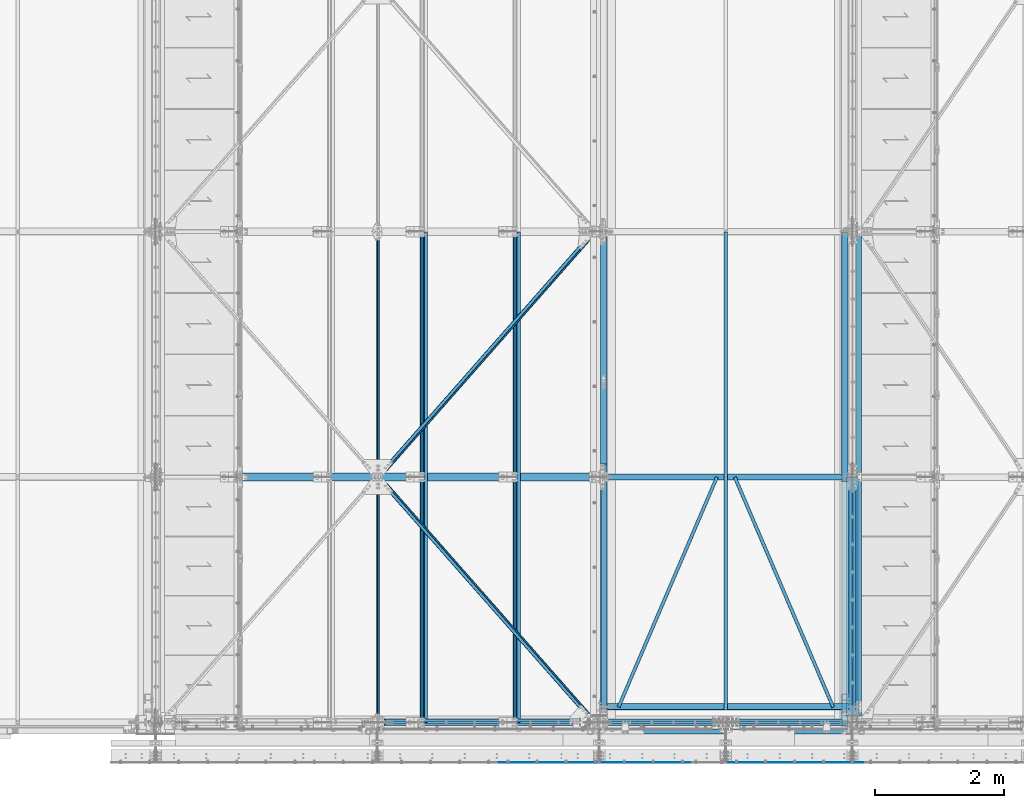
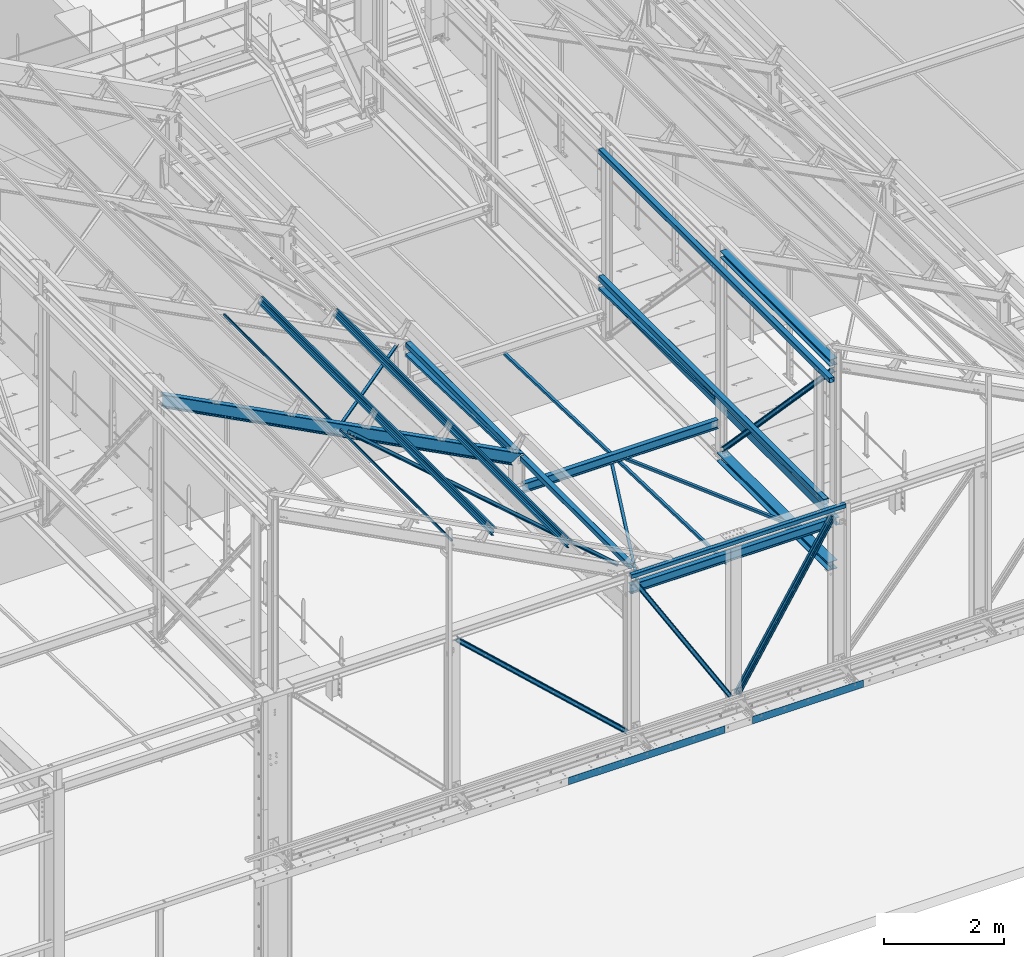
# One storey, part 47 of 362: 23 beams, 9 members, 32 elements without a shape of their own.
"""IFC2X3 building model written with IfcOpenShell, lengths in millimetres."""

from ifc_helpers import new_model, si_unit, frame, origin_with_axes, origin_2d_with_axis, place, context, subcontext, project, spatial, polyline, rectangle, hollow_rectangle, i_section, l_section, u_section, outline, extrude, clip, halfspace, material, type_object, element, aggregate, save


model = new_model("IFC2X3")

# Units and contexts
model_context = context("Model", 3, precision=1e-05, world=origin_with_axes())
body_context = subcontext(model_context, "Body", "Model", "MODEL_VIEW")
ifc_project = project(units=[si_unit("LENGTHUNIT", "METRE", prefix="MILLI"), si_unit("AREAUNIT", "SQUARE_METRE"), si_unit("VOLUMEUNIT", "CUBIC_METRE"), si_unit("MASSUNIT", "GRAM", prefix="KILO"), si_unit("TIMEUNIT", "SECOND"), si_unit("PLANEANGLEUNIT", "RADIAN"), si_unit("SOLIDANGLEUNIT", "STERADIAN"), si_unit("THERMODYNAMICTEMPERATUREUNIT", "DEGREE_CELSIUS"), si_unit("LUMINOUSINTENSITYUNIT", "LUMEN")], contexts=[model_context])

# Site, building, storey
site_placement = place(None, origin_with_axes())
site = spatial("IfcSite", under=ifc_project, at=site_placement, Name="Undefined", CompositionType="ELEMENT")
building_placement = place(site_placement, origin_with_axes())
building = spatial("IfcBuilding", under=site, at=building_placement, Name="Undefined", CompositionType="ELEMENT")
storey_placement = place(building_placement, origin_with_axes())
storey = spatial("IfcBuildingStorey", under=building, at=storey_placement, Name="Undefined", CompositionType="ELEMENT", Elevation=0.0)

# Assembly, beam
assembly_1_placement = place(storey_placement, origin_with_axes())
assembly_1 = element("IfcElementAssembly", 1, at=assembly_1_placement, inside=storey, AssemblyPlace="NOTDEFINED", PredefinedType="NOTDEFINED")
ifc_material_1 = material(Name="Undefined/S235-E24")
beam_type_1 = type_object("IfcBeamType", Name="L50*5", PredefinedType="NOTDEFINED")
beam_1_placement = place(assembly_1_placement, frame((19848.2097133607, 235.976054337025, 7837.48629341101), z_axis=(0.919534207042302, -0.392816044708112, 0.012344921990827), x_axis=(0.39300997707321, 0.919080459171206, -0.0288836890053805)))
beam_1 = element("IfcBeam", 2, at=beam_1_placement, type_object=beam_type_1, material=ifc_material_1, Name="LIERNE", ObjectType="L50*5", context=body_context, shape_type="SweptSolid", body=[
    extrude(l_section(Depth=50.0, Width=50.0, Thickness=5.0, FilletRadius=7.0, EdgeRadius=3.5, at=origin_2d_with_axis()), frame((3876.69700077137, -1.34499945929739e-14, -3.40701718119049e-12), z_axis=(-1.0, 0.0, 0.0), x_axis=(0.0, -1.0, 0.0)), (0.0, 0.0, 1.0), 3876.7),
])
aggregate(assembly_1, [beam_1])

assembly_2_placement = place(storey_placement, origin_with_axes())
assembly_2 = element("IfcElementAssembly", 3, at=assembly_2_placement, inside=storey, AssemblyPlace="NOTDEFINED", PredefinedType="NOTDEFINED")
beam_2_placement = place(assembly_2_placement, frame((23171.7903119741, 235.976054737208, 7837.48629340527), z_axis=(0.919534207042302, 0.392816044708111, -0.0123449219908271), x_axis=(-0.39300997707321, 0.919080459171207, -0.0288836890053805)))
beam_2 = element("IfcBeam", 4, at=beam_2_placement, type_object=beam_type_1, material=ifc_material_1, Name="LIERNE", ObjectType="L50*5", context=body_context, shape_type="SweptSolid", body=[
    extrude(l_section(Depth=50.0, Width=50.0, Thickness=5.0, FilletRadius=7.0, EdgeRadius=3.5, at=origin_2d_with_axis()), frame((3876.69700077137, -1.34499945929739e-14, -3.40701718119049e-12), z_axis=(-1.0, 0.0, 0.0), x_axis=(0.0, -1.0, 0.0)), (0.0, 0.0, 1.0), 3876.7),
])
aggregate(assembly_2, [beam_2])

assembly_3_placement = place(storey_placement, origin_with_axes())
assembly_3 = element("IfcElementAssembly", 5, at=assembly_3_placement, inside=storey, AssemblyPlace="NOTDEFINED", PredefinedType="NOTDEFINED")
beam_3_placement = place(assembly_3_placement, frame((21507.0000126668, 193.083339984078, 7838.83427099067), z_axis=(1.0, 0.0, 0.0), x_axis=(3.14103090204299e-11, 0.999506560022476, -0.0314107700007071)))
beam_3 = element("IfcBeam", 6, at=beam_3_placement, type_object=beam_type_1, material=ifc_material_1, Name="LIERNE", ObjectType="L50*5", context=body_context, shape_type="SweptSolid", body=[
    extrude(l_section(Depth=50.0, Width=50.0, Thickness=5.0, FilletRadius=7.0, EdgeRadius=3.5, at=origin_2d_with_axis()), frame((7401.95936429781, -5.13614107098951e-14, 0.0), z_axis=(-1.0, 0.0, 0.0), x_axis=(0.0, -1.0, 0.0)), (0.0, 0.0, 1.0), 7401.96),
])
aggregate(assembly_3, [beam_3])

assembly_4_placement = place(storey_placement, origin_with_axes())
assembly_4 = element("IfcElementAssembly", 7, at=assembly_4_placement, inside=storey, AssemblyPlace="NOTDEFINED", PredefinedType="NOTDEFINED")
beam_type_2 = type_object("IfcBeamType", Name="L60*6", PredefinedType="NOTDEFINED")
beam_4_placement = place(assembly_4_placement, frame((19477.1831031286, 7597.88523553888, 8549.29591306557), z_axis=(0.463528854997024, 6.99999093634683e-09, 0.886081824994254), x_axis=(-0.624617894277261, -0.709285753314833, 0.326750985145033)))
beam_4 = element("IfcBeam", 8, at=beam_4_placement, type_object=beam_type_2, material=ifc_material_1, Name="STABILITE CVT", ObjectType="L60*6", context=body_context, shape_type="Clipping", body=[
    clip(clip(extrude(l_section(Depth=60.0, Width=60.0, Thickness=6.0, FilletRadius=8.0, EdgeRadius=4.0, at=origin_2d_with_axis()), frame((5278.55461629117, -2.34983368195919e-13, 0.0), z_axis=(-1.0, 0.0, 0.0), x_axis=(0.0, -1.0, 0.0)), (0.0, 0.0, 1.0), 5199.61), halfspace(frame((5188.72403947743, 29.9999999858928, -29.9999505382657), z_axis=(-1.0, 0.0, 0.0), x_axis=(0.0, 0.0, 1.0)), True)), halfspace(frame((168.777987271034, -30.0000000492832, -29.9999736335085), z_axis=(1.0, 0.0, 0.0), x_axis=(0.0, 0.0, 1.0)), True)),
])
aggregate(assembly_4, [beam_4])

assembly_5_placement = place(storey_placement, origin_with_axes())
assembly_5 = element("IfcElementAssembly", 9, at=assembly_5_placement, inside=storey, AssemblyPlace="NOTDEFINED", PredefinedType="NOTDEFINED")
beam_5_placement = place(assembly_5_placement, frame((19477.1831039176, 2.11476189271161, 8549.295912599), z_axis=(-0.628485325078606, -0.704921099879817, 0.32877414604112), x_axis=(-0.624617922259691, 0.70928572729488, 0.326750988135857)))
beam_5 = element("IfcBeam", 10, at=beam_5_placement, type_object=beam_type_2, material=ifc_material_1, Name="STABILITE CVT", ObjectType="L60*6", context=body_context, shape_type="Clipping", body=[
    clip(clip(extrude(l_section(Depth=60.0, Width=60.0, Thickness=6.0, FilletRadius=8.0, EdgeRadius=4.0, at=origin_2d_with_axis()), frame((5278.55476626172, 5.86037303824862e-13, 1.46509325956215e-13), z_axis=(-1.0, 0.0, 0.0), x_axis=(0.0, -1.0, 0.0)), (0.0, 0.0, 1.0), 5199.6), halfspace(frame((5188.72418918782, 29.9999489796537, -30.0000000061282), z_axis=(1.0, 0.0, 0.0), x_axis=(0.0, -1.0, 0.0)), False)), halfspace(frame((168.785817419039, 29.9999318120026, 30.0077309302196), z_axis=(-1.0, 0.0, 0.0), x_axis=(0.0, -1.0, 0.0)), False)),
])
aggregate(assembly_5, [beam_5])

assembly_6_placement = place(storey_placement, origin_with_axes())
assembly_6 = element("IfcElementAssembly", 11, at=assembly_6_placement, inside=storey, Name="SUPPORT", AssemblyPlace="NOTDEFINED", PredefinedType="NOTDEFINED")
beam_type_3 = type_object("IfcBeamType", Name="PL150*4", PredefinedType="NOTDEFINED")
beam_6_placement = place(assembly_6_placement, frame((21514.9999940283, -622.0, 5154.99824538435), z_axis=(0.0, 0.0, 1.0), x_axis=(1.0, 0.0, 0.0)))
beam_6 = element("IfcBeam", 12, at=beam_6_placement, type_object=beam_type_3, material=ifc_material_1, Name="SUPPORT", ObjectType="PL150*4", context=body_context, shape_type="SweptSolid", body=[
    extrude(rectangle(XDim=4.0, YDim=150.0, at=origin_2d_with_axis()), frame((2125.00001791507, 0.0, 0.0), z_axis=(-1.0, 0.0, 0.0), x_axis=(0.0, -1.0, 0.0)), (0.0, 0.0, 1.0), 2125.0),
])
aggregate(assembly_6, [beam_6])

assembly_7_placement = place(storey_placement, origin_with_axes())
assembly_7 = element("IfcElementAssembly", 13, at=assembly_7_placement, inside=storey, Name="SUPPORT", AssemblyPlace="NOTDEFINED", PredefinedType="NOTDEFINED")
beam_7_placement = place(assembly_7_placement, frame((17989.9999880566, -622.0, 5154.99824538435), z_axis=(0.0, 0.0, 1.0), x_axis=(1.0, 0.0, 0.0)))
beam_7 = element("IfcBeam", 14, at=beam_7_placement, type_object=beam_type_3, material=ifc_material_1, Name="SUPPORT", ObjectType="PL150*4", context=body_context, shape_type="SweptSolid", body=[
    extrude(rectangle(XDim=4.0, YDim=150.0, at=origin_2d_with_axis()), frame((2999.99999402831, 0.0, 0.0), z_axis=(-1.0, 0.0, 0.0), x_axis=(0.0, -1.0, 0.0)), (0.0, 0.0, 1.0), 3000.0),
])
aggregate(assembly_7, [beam_7])

assembly_8_placement = place(storey_placement, origin_with_axes())
assembly_8 = element("IfcElementAssembly", 15, at=assembly_8_placement, inside=storey, Name="LISSE", AssemblyPlace="NOTDEFINED", PredefinedType="NOTDEFINED")
beam_type_4 = type_object("IfcBeamType", Name="UPF-100*50*4", PredefinedType="NOTDEFINED")
beam_8_placement = place(assembly_8_placement, frame((23353.5001162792, 3730.03454686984, 8413.05496432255), z_axis=(1.0, 0.0, 0.0), x_axis=(0.0, 0.99950644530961, -0.0314144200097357)))
beam_8 = element("IfcBeam", 16, at=beam_8_placement, type_object=beam_type_4, material=ifc_material_1, Name="LISSE CONTREBARDAGE", ObjectType="UPF-100*50*4", context=body_context, shape_type="SweptSolid", body=[
    extrude(u_section(Depth=100.0, FlangeWidth=50.0, WebThickness=4.0, FlangeThickness=4.0, at=origin_2d_with_axis()), frame((3864.8364307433, 0.0, 0.0), z_axis=(-1.0, 0.0, 0.0), x_axis=(0.0, -1.0, 0.0)), (0.0, 0.0, 1.0), 3864.84),
])
aggregate(assembly_8, [beam_8])

assembly_9_placement = place(storey_placement, origin_with_axes())
assembly_9 = element("IfcElementAssembly", 17, at=assembly_9_placement, inside=storey, Name="LISSE", AssemblyPlace="NOTDEFINED", PredefinedType="NOTDEFINED")
beam_9_placement = place(assembly_9_placement, frame((19620.0000000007, 3800.0, 8410.85601504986), z_axis=(1.0, 0.0, 0.0), x_axis=(0.0, 0.99950644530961, -0.0314144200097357)))
beam_9 = element("IfcBeam", 18, at=beam_9_placement, type_object=beam_type_4, material=ifc_material_1, Name="LISSE CONTREBARDAGE", ObjectType="UPF-100*50*4", context=body_context, shape_type="Clipping", body=[
    clip(clip(extrude(u_section(Depth=100.0, FlangeWidth=50.0, WebThickness=4.0, FlangeThickness=4.0, at=origin_2d_with_axis()), frame((3738.43154409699, 2.59405798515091e-14, 0.0), z_axis=(-1.0, 0.0, 0.0), x_axis=(0.0, -1.0, 0.0)), (0.0, 0.0, 1.0), 3536.42), halfspace(frame((3735.73414698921, 35.3226290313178, 49.9999999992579), z_axis=(-0.999506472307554, -0.0314135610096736, 0.0), x_axis=(0.0, 0.0, 1.0)), True)), halfspace(frame((202.484021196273, 35.5224298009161, 49.9999999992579), z_axis=(0.999506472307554, 0.0314135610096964, 0.0), x_axis=(0.0, 0.0, 1.0)), True)),
])
aggregate(assembly_9, [beam_9])

assembly_10_placement = place(storey_placement, origin_with_axes())
assembly_10 = element("IfcElementAssembly", 19, at=assembly_10_placement, inside=storey, Name="LISSE", AssemblyPlace="NOTDEFINED", PredefinedType="NOTDEFINED")
beam_type_5 = type_object("IfcBeamType", Name="TUBE-C-100*100*4", PredefinedType="NOTDEFINED")
beam_10_placement = place(assembly_10_placement, frame((23353.5000012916, -70.0000009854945, 11069.999999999), z_axis=(0.0, 0.0, -1.0), x_axis=(0.0, 1.0, 0.0)))
beam_10 = element("IfcBeam", 20, at=beam_10_placement, type_object=beam_type_5, material=ifc_material_1, Name="LISSE ACROTERE", ObjectType="TUBE-C-100*100*4", context=body_context, shape_type="SweptSolid", body=[
    extrude(hollow_rectangle(XDim=100.0, YDim=100.0, WallThickness=4.0, InnerFilletRadius=4.0, OuterFilletRadius=8.0, at=origin_2d_with_axis()), frame((7664.99999999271, 0.0, 0.0), z_axis=(-1.0, 0.0, 0.0), x_axis=(0.0, -1.0, 0.0)), (0.0, 0.0, 1.0), 7665.0),
])
aggregate(assembly_10, [beam_10])

assembly_11_placement = place(storey_placement, origin_with_axes())
assembly_11 = element("IfcElementAssembly", 21, at=assembly_11_placement, inside=storey, Name="LISSE", AssemblyPlace="NOTDEFINED", PredefinedType="NOTDEFINED")
beam_11_placement = place(assembly_11_placement, frame((23353.5, 110.0, 8500.0), z_axis=(0.0, 0.0, 1.0), x_axis=(0.0, 1.0, 0.0)))
beam_11 = element("IfcBeam", 22, at=beam_11_placement, type_object=beam_type_5, material=ifc_material_1, Name="LISSE ACROTERE", ObjectType="TUBE-C-100*100*4", context=body_context, shape_type="SweptSolid", body=[
    extrude(hollow_rectangle(XDim=100.0, YDim=100.0, WallThickness=4.0, InnerFilletRadius=4.0, OuterFilletRadius=8.0, at=origin_2d_with_axis()), frame((7485.0, 0.0, 0.0), z_axis=(-1.0, 0.0, 0.0), x_axis=(0.0, -1.0, 0.0)), (0.0, 0.0, 1.0), 7485.0),
])
aggregate(assembly_11, [beam_11])

assembly_12_placement = place(storey_placement, origin_with_axes())
assembly_12 = element("IfcElementAssembly", 23, at=assembly_12_placement, inside=storey, Name="LISSE", AssemblyPlace="NOTDEFINED", PredefinedType="NOTDEFINED")
beam_12_placement = place(assembly_12_placement, frame((19619.9999999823, 3870.0, 8500.0), z_axis=(0.0, 0.0, 1.0), x_axis=(0.0, 1.0, 0.0)))
beam_12 = element("IfcBeam", 24, at=beam_12_placement, type_object=beam_type_5, material=ifc_material_1, Name="LISSE ACROTERE", ObjectType="TUBE-C-100*100*4", context=body_context, shape_type="SweptSolid", body=[
    extrude(hollow_rectangle(XDim=100.0, YDim=100.0, WallThickness=4.0, InnerFilletRadius=4.0, OuterFilletRadius=8.0, at=origin_2d_with_axis()), frame((3660.0, 0.0, 0.0), z_axis=(-1.0, 0.0, 0.0), x_axis=(0.0, -1.0, 0.0)), (0.0, 0.0, 1.0), 3660.0),
])
aggregate(assembly_12, [beam_12])

assembly_13_placement = place(storey_placement, origin_with_axes())
assembly_13 = element("IfcElementAssembly", 25, at=assembly_13_placement, inside=storey, Name="LISSE", AssemblyPlace="NOTDEFINED", PredefinedType="NOTDEFINED")
beam_13_placement = place(assembly_13_placement, frame((19619.9999999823, 110.0, 8500.0), z_axis=(0.0, 0.0, 1.0), x_axis=(0.0, 1.0, 0.0)))
beam_13 = element("IfcBeam", 26, at=beam_13_placement, type_object=beam_type_5, material=ifc_material_1, Name="LISSE ACROTERE", ObjectType="TUBE-C-100*100*4", context=body_context, shape_type="SweptSolid", body=[
    extrude(hollow_rectangle(XDim=100.0, YDim=100.0, WallThickness=4.0, InnerFilletRadius=4.0, OuterFilletRadius=8.0, at=origin_2d_with_axis()), frame((3620.0, 0.0, 0.0), z_axis=(-1.0, 0.0, 0.0), x_axis=(0.0, -1.0, 0.0)), (0.0, 0.0, 1.0), 3620.0),
])
aggregate(assembly_13, [beam_13])

assembly_14_placement = place(storey_placement, origin_with_axes())
assembly_14 = element("IfcElementAssembly", 27, at=assembly_14_placement, inside=storey, AssemblyPlace="NOTDEFINED", PredefinedType="NOTDEFINED")
beam_type_6 = type_object("IfcBeamType", Name="TUBE-C-40*40*4", PredefinedType="NOTDEFINED")
beam_14_placement = place(assembly_14_placement, frame((16124.270567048, 3720.00159576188, 10291.9905320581), z_axis=(-0.886082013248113, 9.38091927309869e-07, 0.463528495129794), x_axis=(0.0, -1.0, 0.0)))
beam_14 = element("IfcBeam", 28, at=beam_14_placement, type_object=beam_type_6, material=ifc_material_1, Name="BUTON", ObjectType="TUBE-C-40*40*4", context=body_context, shape_type="SweptSolid", body=[
    extrude(hollow_rectangle(XDim=40.0, YDim=40.0, WallThickness=4.0, InnerFilletRadius=4.0, OuterFilletRadius=8.0, at=origin_2d_with_axis()), frame((3700.00159576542, -3.63797880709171e-12, -3.63797880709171e-12), z_axis=(-1.0, 0.0, 0.0), x_axis=(0.0, -1.0, 0.0)), (0.0, 0.0, 1.0), 3700.0),
])
aggregate(assembly_14, [beam_14])

assembly_15_placement = place(storey_placement, origin_with_axes())
assembly_15 = element("IfcElementAssembly", 29, at=assembly_15_placement, inside=storey, AssemblyPlace="NOTDEFINED", PredefinedType="NOTDEFINED")
beam_15_placement = place(assembly_15_placement, frame((16124.2705700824, 7579.99999999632, 10291.9905299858), z_axis=(-0.886082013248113, 9.38091927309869e-07, 0.463528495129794), x_axis=(-8.13000000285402e-07, -0.999999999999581, 4.20999999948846e-07)))
beam_15 = element("IfcBeam", 30, at=beam_15_placement, type_object=beam_type_6, material=ifc_material_1, Name="BUTON", ObjectType="TUBE-C-40*40*4", context=body_context, shape_type="SweptSolid", body=[
    extrude(hollow_rectangle(XDim=40.0, YDim=40.0, WallThickness=4.0, InnerFilletRadius=4.0, OuterFilletRadius=8.0, at=origin_2d_with_axis()), frame((3700.00150276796, -3.63797900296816e-12, -3.9175289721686e-19), z_axis=(-1.0, 0.0, 0.0), x_axis=(0.0, -1.0, 0.0)), (0.0, 0.0, 1.0), 3700.0),
])
aggregate(assembly_15, [beam_15])

assembly_16_placement = place(storey_placement, origin_with_axes())
assembly_16 = element("IfcElementAssembly", 31, at=assembly_16_placement, inside=storey, AssemblyPlace="NOTDEFINED", PredefinedType="NOTDEFINED")
ifc_material_2 = material(Name="Undefined/S275-E28")
beam_type_7 = type_object("IfcBeamType", Name="HEA140", PredefinedType="NOTDEFINED")
beam_16_placement = place(assembly_16_placement, frame((23473.5, 3725.0, 11302.5), z_axis=(0.0, 0.0, 1.0), x_axis=(0.0, -1.0, 0.0)))
beam_16 = element("IfcBeam", 32, at=beam_16_placement, type_object=beam_type_7, material=ifc_material_2, Name="LONGERON", ObjectType="HEA140", context=body_context, shape_type="SweptSolid", body=[
    extrude(i_section(OverallWidth=140.0, OverallDepth=133.0, WebThickness=5.5, FlangeThickness=8.5, FilletRadius=12.0, at=origin_2d_with_axis()), frame((3650.0, 0.0, 0.0), z_axis=(-1.0, 0.0, 0.0), x_axis=(0.0, -1.0, 0.0)), (0.0, 0.0, 1.0), 3650.0),
])
aggregate(assembly_16, [beam_16])

assembly_17_placement = place(storey_placement, origin_with_axes())
assembly_17 = element("IfcElementAssembly", 33, at=assembly_17_placement, inside=storey, AssemblyPlace="NOTDEFINED", PredefinedType="NOTDEFINED")
beam_type_8 = type_object("IfcBeamType", Name="HEA180", PredefinedType="NOTDEFINED")
beam_17_placement = place(assembly_17_placement, frame((23470.0, 3794.99999867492, 7164.50000000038), z_axis=(0.0, 0.0, 1.0), x_axis=(0.0, -1.0, 0.0)))
beam_17 = element("IfcBeam", 34, at=beam_17_placement, type_object=beam_type_8, material=ifc_material_2, Name="LONGERON", ObjectType="HEA180", context=body_context, shape_type="SweptSolid", body=[
    extrude(i_section(OverallWidth=180.0, OverallDepth=171.0, WebThickness=6.0, FlangeThickness=9.5, FilletRadius=15.0, at=origin_2d_with_axis()), frame((3689.99694071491, 0.0, 0.0), z_axis=(-1.0, 0.0, 0.0), x_axis=(0.0, -1.0, 0.0)), (0.0, 0.0, 1.0), 3690.0),
])
aggregate(assembly_17, [beam_17])

assembly_18_placement = place(storey_placement, origin_with_axes())
assembly_18 = element("IfcElementAssembly", 35, at=assembly_18_placement, inside=storey, AssemblyPlace="NOTDEFINED", PredefinedType="NOTDEFINED")
beam_type_9 = type_object("IfcBeamType", Name="UPF-150*70*5", PredefinedType="NOTDEFINED")
beam_18_placement = place(assembly_18_placement, frame((23571.5000574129, 105.000000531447, 8025.0), z_axis=(0.0, 0.0, 1.0), x_axis=(0.0, 1.0, 0.0)))
beam_18 = element("IfcBeam", 36, at=beam_18_placement, type_object=beam_type_9, material=ifc_material_1, Name="LONGERON", ObjectType="UPF-150*70*5", context=body_context, shape_type="SweptSolid", body=[
    extrude(u_section(Depth=150.0, FlangeWidth=70.0, WebThickness=5.0, FlangeThickness=5.0, at=origin_2d_with_axis()), frame((7490.00000100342, 2.47823311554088e-20, 0.0), z_axis=(-1.0, 0.0, 0.0), x_axis=(0.0, -1.0, 0.0)), (0.0, 0.0, 1.0), 7490.0),
])
aggregate(assembly_18, [beam_18])

assembly_19_placement = place(storey_placement, origin_with_axes())
assembly_19 = element("IfcElementAssembly", 37, at=assembly_19_placement, inside=storey, Name="PANNE SHED", AssemblyPlace="NOTDEFINED", PredefinedType="NOTDEFINED")
beam_type_10 = type_object("IfcBeamType", Name="B140/150", PredefinedType="NOTDEFINED")
beam_19_placement = place(assembly_19_placement, frame((16833.5855159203, -154.999920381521, 10327.2156396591), z_axis=(0.463528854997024, 6.99999093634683e-09, 0.886081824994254), x_axis=(0.0, 1.0, 0.0)))
beam_19 = element("IfcBeam", 38, at=beam_19_placement, type_object=beam_type_10, material=ifc_material_1, Name="PANNE SHED", ObjectType="B140/150", context=body_context, shape_type="SweptSolid", body=[
    extrude(outline(polyline([(-27.9999999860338, 36.0000000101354), (-27.999999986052, 70.0000000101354), (28.0000000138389, 70.0000000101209), (28.0000000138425, 58.0000000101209), (26.5000000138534, 58.0000000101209), (26.5000000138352, 68.5000000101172), (-26.4999999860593, 68.5000000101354), (-26.4999999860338, 36.7000007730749), (-1.49999998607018, 15.6999998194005), (-1.49999998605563, -15.6999997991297), (-26.4999999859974, -36.7000007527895), (-26.4999999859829, -68.49999998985), (26.5000000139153, -68.4999999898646), (26.500000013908, -57.9999999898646), (28.0000000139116, -57.9999999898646), (28.0000000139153, -69.9999999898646), (-27.9999999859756, -69.99999998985), (-27.9999999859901, -35.99999998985), (-2.99999998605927, -14.9999999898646), (-2.9999999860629, 15.0000000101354), (-27.9999999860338, 36.0000000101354)])), frame((7750.00000000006, -3.63797880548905e-12, 0.0), z_axis=(-1.0, 0.0, 0.0), x_axis=(0.0, -1.0, 0.0)), (0.0, 0.0, 1.0), 7750.0),
])
aggregate(assembly_19, [beam_19])

assembly_20_placement = place(storey_placement, origin_with_axes())
assembly_20 = element("IfcElementAssembly", 39, at=assembly_20_placement, inside=storey, Name="PANNE SHED", AssemblyPlace="NOTDEFINED", PredefinedType="NOTDEFINED")
beam_20_placement = place(assembly_20_placement, frame((18270.8856646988, -154.999920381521, 9575.33349724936), z_axis=(0.463528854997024, 6.99999093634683e-09, 0.886081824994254), x_axis=(0.0, 1.0, 0.0)))
beam_20 = element("IfcBeam", 40, at=beam_20_placement, type_object=beam_type_10, material=ifc_material_1, Name="PANNE SHED", ObjectType="B140/150", context=body_context, shape_type="SweptSolid", body=[
    extrude(outline(polyline([(-27.9999999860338, 36.0000000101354), (-27.999999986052, 70.0000000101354), (28.0000000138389, 70.0000000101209), (28.0000000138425, 58.0000000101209), (26.5000000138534, 58.0000000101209), (26.5000000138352, 68.5000000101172), (-26.4999999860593, 68.5000000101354), (-26.4999999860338, 36.7000007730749), (-1.49999998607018, 15.6999998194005), (-1.49999998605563, -15.6999997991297), (-26.4999999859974, -36.7000007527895), (-26.4999999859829, -68.49999998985), (26.5000000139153, -68.4999999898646), (26.500000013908, -57.9999999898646), (28.0000000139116, -57.9999999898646), (28.0000000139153, -69.9999999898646), (-27.9999999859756, -69.99999998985), (-27.9999999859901, -35.99999998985), (-2.99999998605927, -14.9999999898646), (-2.9999999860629, 15.0000000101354), (-27.9999999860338, 36.0000000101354)])), frame((7750.00000000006, -3.63797880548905e-12, 0.0), z_axis=(-1.0, 0.0, 0.0), x_axis=(0.0, -1.0, 0.0)), (0.0, 0.0, 1.0), 7750.0),
])
aggregate(assembly_20, [beam_20])

# Assembly, member
assembly_21_placement = place(storey_placement, origin_with_axes())
assembly_21 = element("IfcElementAssembly", 41, at=assembly_21_placement, inside=storey, AssemblyPlace="NOTDEFINED", PredefinedType="NOTDEFINED")
member_type_1 = type_object("IfcMemberType", Name="UPN80", PredefinedType="NOTDEFINED")
member_1_placement = place(assembly_21_placement, frame((23497.5000000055, 3799.99999999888, 7250.0), z_axis=(0.0, -0.723792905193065, -0.690017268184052), x_axis=(0.0, -0.690017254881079, 0.723792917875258)))
member_1 = element("IfcMember", 42, at=member_1_placement, type_object=member_type_1, material=ifc_material_2, Name="DIAGONALE", ObjectType="UPN80", context=body_context, shape_type="Clipping", body=[
    clip(clip(extrude(u_section(Depth=80.0, FlangeWidth=45.0, WebThickness=6.0, FlangeThickness=8.0, FilletRadius=8.0, EdgeRadius=4.0, FlangeSlope=0.0798299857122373, at=origin_2d_with_axis()), frame((5467.80815243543, -3.63797880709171e-12, 1.21301902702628e-12), z_axis=(-1.0, 0.0, 0.0), x_axis=(0.0, -1.0, 0.0)), (0.0, 0.0, 1.0), 5428.52), halfspace(frame((5387.10032826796, 27.5000000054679, -39.9999987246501), z_axis=(-1.0, 0.0, 0.0), x_axis=(0.0, 1.0, 0.0)), True)), halfspace(frame((119.999999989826, 27.5000000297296, 39.9999985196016), z_axis=(1.0, 0.0, 0.0), x_axis=(0.0, 1.0, 0.0)), True)),
])
aggregate(assembly_21, [member_1])

assembly_22_placement = place(storey_placement, origin_with_axes())
assembly_22 = element("IfcElementAssembly", 43, at=assembly_22_placement, inside=storey, AssemblyPlace="NOTDEFINED", PredefinedType="NOTDEFINED")
member_2_placement = place(assembly_22_placement, frame((23442.4999999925, 0.00552265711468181, 11235.9999997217), z_axis=(0.0, -0.723792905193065, -0.690017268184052), x_axis=(0.0, 0.690017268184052, -0.723792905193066)))
member_2 = element("IfcMember", 44, at=member_2_placement, type_object=member_type_1, material=ifc_material_2, Name="DIAGONALE", ObjectType="UPN80", context=body_context, shape_type="Clipping", body=[
    clip(clip(extrude(u_section(Depth=80.0, FlangeWidth=45.0, WebThickness=6.0, FlangeThickness=8.0, FilletRadius=8.0, EdgeRadius=4.0, FlangeSlope=0.0798299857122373, at=origin_2d_with_axis()), frame((5467.80815243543, -3.63797880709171e-12, 1.21301902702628e-12), z_axis=(-1.0, 0.0, 0.0), x_axis=(0.0, -1.0, 0.0)), (0.0, 0.0, 1.0), 5428.52), halfspace(frame((5387.10032827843, 27.5000000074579, 40.0), z_axis=(-1.0, 0.0, 0.0), x_axis=(0.0, -1.0, 0.0)), True)), halfspace(frame((119.999999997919, 27.49999999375, -39.9999989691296), z_axis=(1.0, 0.0, 0.0), x_axis=(0.0, -1.0, 0.0)), True)),
])
aggregate(assembly_22, [member_2])

assembly_23_placement = place(storey_placement, origin_with_axes())
assembly_23 = element("IfcElementAssembly", 45, at=assembly_23_placement, inside=storey, AssemblyPlace="NOTDEFINED", PredefinedType="NOTDEFINED")
member_3_placement = place(assembly_23_placement, frame((16114.9998359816, 27.5000000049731, 8359.99931169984), z_axis=(-0.67819106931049, 0.0, -0.734885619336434), x_axis=(0.73488563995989, 0.0, -0.67819104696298)))
member_3 = element("IfcMember", 46, at=member_3_placement, type_object=member_type_1, material=ifc_material_2, Name="DIAGONALE", ObjectType="UPN80", context=body_context, shape_type="Clipping", body=[
    clip(clip(extrude(u_section(Depth=80.0, FlangeWidth=45.0, WebThickness=6.0, FlangeThickness=8.0, FilletRadius=8.0, EdgeRadius=4.0, FlangeSlope=0.0798299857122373, at=origin_2d_with_axis()), frame((4634.7372696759, -7.105427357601e-15, -3.38069920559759e-12), z_axis=(-1.0, 0.0, 0.0), x_axis=(0.0, -1.0, 0.0)), (0.0, 0.0, 1.0), 4595.28), halfspace(frame((4554.19698295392, 27.5000000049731, -40.0000006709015), z_axis=(-1.0, 0.0, 0.0), x_axis=(0.0, 1.0, 0.0)), True)), halfspace(frame((119.999999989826, 27.5000000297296, 39.9999985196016), z_axis=(1.0, 0.0, 0.0), x_axis=(0.0, 1.0, 0.0)), True)),
])
aggregate(assembly_23, [member_3])

assembly_24_placement = place(storey_placement, origin_with_axes())
assembly_24 = element("IfcElementAssembly", 47, at=assembly_24_placement, inside=storey, AssemblyPlace="NOTDEFINED", PredefinedType="NOTDEFINED")
member_4_placement = place(assembly_24_placement, frame((19550.0000057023, -27.5000000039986, 5190.0006887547), z_axis=(-0.67819106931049, 0.0, -0.734885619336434), x_axis=(-0.734885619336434, 0.0, 0.67819106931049)))
member_4 = element("IfcMember", 48, at=member_4_placement, type_object=member_type_1, material=ifc_material_2, Name="DIAGONALE", ObjectType="UPN80", context=body_context, shape_type="Clipping", body=[
    clip(clip(extrude(u_section(Depth=80.0, FlangeWidth=45.0, WebThickness=6.0, FlangeThickness=8.0, FilletRadius=8.0, EdgeRadius=4.0, FlangeSlope=0.0798299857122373, at=origin_2d_with_axis()), frame((4634.7372696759, -7.105427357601e-15, -3.38069920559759e-12), z_axis=(-1.0, 0.0, 0.0), x_axis=(0.0, -1.0, 0.0)), (0.0, 0.0, 1.0), 4595.28), halfspace(frame((4554.19698297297, 27.5000000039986, 39.9999999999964), z_axis=(-1.0, 0.0, 0.0), x_axis=(0.0, -1.0, 0.0)), True)), halfspace(frame((119.999999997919, 27.49999999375, -39.9999989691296), z_axis=(1.0, 0.0, 0.0), x_axis=(0.0, -1.0, 0.0)), True)),
])
aggregate(assembly_24, [member_4])

assembly_25_placement = place(storey_placement, origin_with_axes())
assembly_25 = element("IfcElementAssembly", 49, at=assembly_25_placement, inside=storey, AssemblyPlace="NOTDEFINED", PredefinedType="NOTDEFINED")
member_5_placement = place(assembly_25_placement, frame((21509.9998361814, 27.4999999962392, 5190.00068841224), z_axis=(0.850550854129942, 0.0, 0.525892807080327), x_axis=(-0.52589280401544, 0.0, 0.850550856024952)))
member_5 = element("IfcMember", 50, at=member_5_placement, type_object=member_type_1, material=ifc_material_2, Name="DIAGONALE", ObjectType="UPN80", context=body_context, shape_type="Clipping", body=[
    clip(clip(extrude(u_section(Depth=80.0, FlangeWidth=45.0, WebThickness=6.0, FlangeThickness=8.0, FilletRadius=8.0, EdgeRadius=4.0, FlangeSlope=0.0798299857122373, at=origin_2d_with_axis()), frame((3679.2782996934, 0.0, 0.0), z_axis=(-1.0, 0.0, 0.0), x_axis=(0.0, -1.0, 0.0)), (0.0, 0.0, 1.0), 3631.56), halfspace(frame((3606.9948486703, 27.4999999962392, -40.0000002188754), z_axis=(1.0, 0.0, 0.0), x_axis=(0.0, 0.0, 1.0)), False)), halfspace(frame((119.999999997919, 27.49999999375, -39.9999989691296), z_axis=(1.0, 0.0, 0.0), x_axis=(0.0, 0.0, 1.0)), True)),
])
aggregate(assembly_25, [member_5])

assembly_26_placement = place(storey_placement, origin_with_axes())
assembly_26 = element("IfcElementAssembly", 51, at=assembly_26_placement, inside=storey, AssemblyPlace="NOTDEFINED", PredefinedType="NOTDEFINED")
member_6_placement = place(assembly_26_placement, frame((19550.0000046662, -27.5000000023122, 8359.99931025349), z_axis=(0.850550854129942, 0.0, 0.525892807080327), x_axis=(0.525892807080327, 0.0, -0.850550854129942)))
member_6 = element("IfcMember", 52, at=member_6_placement, type_object=member_type_1, material=ifc_material_2, Name="DIAGONALE", ObjectType="UPN80", context=body_context, shape_type="Clipping", body=[
    clip(clip(extrude(u_section(Depth=80.0, FlangeWidth=45.0, WebThickness=6.0, FlangeThickness=8.0, FilletRadius=8.0, EdgeRadius=4.0, FlangeSlope=0.0798299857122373, at=origin_2d_with_axis()), frame((3679.2782996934, 0.0, 0.0), z_axis=(-1.0, 0.0, 0.0), x_axis=(0.0, -1.0, 0.0)), (0.0, 0.0, 1.0), 3631.56), halfspace(frame((3606.9948486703, 27.4999999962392, -40.0000002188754), z_axis=(-1.0, 0.0, 0.0), x_axis=(0.0, 0.0, 1.0)), True)), halfspace(frame((119.999999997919, 27.49999999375, -39.9999989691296), z_axis=(-1.0, 0.0, 0.0), x_axis=(0.0, 0.0, 1.0)), False)),
])
aggregate(assembly_26, [member_6])

assembly_27_placement = place(storey_placement, origin_with_axes())
assembly_27 = element("IfcElementAssembly", 53, at=assembly_27_placement, inside=storey, AssemblyPlace="NOTDEFINED", PredefinedType="NOTDEFINED")
member_7_placement = place(assembly_27_placement, frame((23470.0000047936, 27.5000000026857, 8359.99930913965), z_axis=(-0.850550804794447, 0.0, 0.525892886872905), x_axis=(-0.525892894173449, 0.0, -0.850550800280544)))
member_7 = element("IfcMember", 54, at=member_7_placement, type_object=member_type_1, material=ifc_material_2, Name="DIAGONALE", ObjectType="UPN80", context=body_context, shape_type="Clipping", body=[
    clip(clip(extrude(u_section(Depth=80.0, FlangeWidth=45.0, WebThickness=6.0, FlangeThickness=8.0, FilletRadius=8.0, EdgeRadius=4.0, FlangeSlope=0.0798299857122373, at=origin_2d_with_axis()), frame((3679.27848179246, 0.0, 4.08481968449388e-13), z_axis=(-1.0, 0.0, 0.0), x_axis=(0.0, -1.0, 0.0)), (0.0, 0.0, 1.0), 3631.56), halfspace(frame((3606.99502519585, 27.5000000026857, 40.0000000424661), z_axis=(-1.0, 0.0, 0.0), x_axis=(0.0, 0.0, -1.0)), True)), halfspace(frame((119.999999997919, 27.49999999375, -39.9999989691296), z_axis=(1.0, 0.0, 0.0), x_axis=(0.0, 0.0, 1.0)), True)),
])
aggregate(assembly_27, [member_7])

assembly_28_placement = place(storey_placement, origin_with_axes())
assembly_28 = element("IfcElementAssembly", 55, at=assembly_28_placement, inside=storey, AssemblyPlace="NOTDEFINED", PredefinedType="NOTDEFINED")
member_8_placement = place(assembly_28_placement, frame((21509.9998359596, -27.5000000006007, 5190.00068831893), z_axis=(-0.850550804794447, 0.0, 0.525892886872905), x_axis=(0.525892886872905, 0.0, 0.850550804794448)))
member_8 = element("IfcMember", 56, at=member_8_placement, type_object=member_type_1, material=ifc_material_2, Name="DIAGONALE", ObjectType="UPN80", context=body_context, shape_type="Clipping", body=[
    clip(clip(extrude(u_section(Depth=80.0, FlangeWidth=45.0, WebThickness=6.0, FlangeThickness=8.0, FilletRadius=8.0, EdgeRadius=4.0, FlangeSlope=0.0798299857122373, at=origin_2d_with_axis()), frame((3679.27848179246, 0.0, 4.08481968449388e-13), z_axis=(-1.0, 0.0, 0.0), x_axis=(0.0, -1.0, 0.0)), (0.0, 0.0, 1.0), 3631.56), halfspace(frame((3606.99502517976, 27.5000000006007, -40.0), z_axis=(-1.0, 0.0, 0.0), x_axis=(0.0, 0.0, 1.0)), True)), halfspace(frame((119.999999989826, 27.5000000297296, 39.9999985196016), z_axis=(1.0, 0.0, 0.0), x_axis=(0.0, 0.0, -1.0)), True)),
])
aggregate(assembly_28, [member_8])

# Assembly, beam
assembly_29_placement = place(storey_placement, origin_with_axes())
assembly_29 = element("IfcElementAssembly", 57, at=assembly_29_placement, inside=storey, Name="LISSE", AssemblyPlace="NOTDEFINED", PredefinedType="NOTDEFINED")
beam_type_11 = type_object("IfcBeamType", Name="TUBE-C-80*80*4", PredefinedType="NOTDEFINED")
beam_21_placement = place(assembly_29_placement, frame((19454.999999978, -139.999999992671, 8509.99999998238), z_axis=(0.0, 0.0, 1.0), x_axis=(1.0, 0.0, 0.0)))
beam_21 = element("IfcBeam", 58, at=beam_21_placement, type_object=beam_type_11, material=ifc_material_1, Name="LISSE ACROTERE", ObjectType="TUBE-C-80*80*4", context=body_context, shape_type="SweptSolid", body=[
    extrude(hollow_rectangle(XDim=80.0, YDim=80.0, WallThickness=4.0, InnerFilletRadius=4.0, OuterFilletRadius=8.0, at=origin_2d_with_axis()), frame((4110.0, 0.0, 0.0), z_axis=(-1.0, 0.0, 0.0), x_axis=(0.0, -1.0, 0.0)), (0.0, 0.0, 1.0), 4110.0),
])
aggregate(assembly_29, [beam_21])

# Assembly, member
assembly_30_placement = place(storey_placement, origin_with_axes())
assembly_30 = element("IfcElementAssembly", 59, at=assembly_30_placement, inside=storey, Name="TRAVERSE SHED", AssemblyPlace="NOTDEFINED", PredefinedType="NOTDEFINED")
member_type_2 = type_object("IfcMemberType", Name="IPE240", PredefinedType="NOTDEFINED")
member_9_placement = place(assembly_30_placement, frame((12694.3765846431, 3799.99999999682, 12063.6701562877), z_axis=(0.463528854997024, 6.99999093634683e-09, 0.886081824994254), x_axis=(0.886081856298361, 3.500000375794e-08, -0.463528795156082)))
member_9 = element("IfcMember", 60, at=member_9_placement, type_object=member_type_2, material=ifc_material_2, Name="TRAVERSE SHED", ObjectType="IPE240", context=body_context, shape_type="Clipping", body=[
    clip(clip(extrude(i_section(OverallWidth=120.0, OverallDepth=240.0, WebThickness=6.199999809, FlangeThickness=9.800000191, FilletRadius=15.0, at=origin_2d_with_axis()), frame((7941.81660004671, -4.54747350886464e-13, 4.40859382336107e-13), z_axis=(-1.0, 0.0, 0.0), x_axis=(0.0, -1.0, 0.0)), (0.0, 0.0, 1.0), 8076.52), halfspace(frame((7809.66068490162, 3.18095771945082e-09, 119.999998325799), z_axis=(-0.855432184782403, 0.0, 0.51791483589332), x_axis=(0.0, -1.0, 0.0)), True)), halfspace(frame((5.75953323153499, 3.18157252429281e-09, 123.012934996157), z_axis=(-0.886082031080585, 0.0, -0.463528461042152), x_axis=(0.0, -1.0, 0.0)), False)),
])
aggregate(assembly_30, [member_9])

# Assembly, beam
assembly_31_placement = place(storey_placement, origin_with_axes())
assembly_31 = element("IfcElementAssembly", 61, at=assembly_31_placement, inside=storey, AssemblyPlace="NOTDEFINED", PredefinedType="NOTDEFINED")
beam_type_12 = type_object("IfcBeamType", Name="IPE180", PredefinedType="NOTDEFINED")
beam_22_placement = place(assembly_31_placement, frame((19659.9999999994, 3799.99999998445, 7840.53573261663), z_axis=(7.58071938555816e-11, 0.0314107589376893, 0.999506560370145), x_axis=(1.0, 0.0, 0.0)))
beam_22 = element("IfcBeam", 62, at=beam_22_placement, type_object=beam_type_12, material=ifc_material_2, Name="PANNE", ObjectType="IPE180", context=body_context, shape_type="SweptSolid", body=[
    extrude(i_section(OverallWidth=91.0, OverallDepth=180.0, WebThickness=5.300000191, FlangeThickness=8.0, FilletRadius=9.0, at=origin_2d_with_axis()), frame((3733.49999999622, 0.0, 0.0), z_axis=(-1.0, 0.0, 0.0), x_axis=(0.0, -1.0, 0.0)), (0.0, 0.0, 1.0), 3733.5),
])
aggregate(assembly_31, [beam_22])

assembly_32_placement = place(storey_placement, origin_with_axes())
assembly_32 = element("IfcElementAssembly", 63, at=assembly_32_placement, inside=storey, AssemblyPlace="NOTDEFINED", PredefinedType="NOTDEFINED")
beam_23_placement = place(assembly_32_placement, frame((19660.0000000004, 242.173031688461, 7952.34497440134), z_axis=(7.58071938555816e-11, 0.0314107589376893, 0.999506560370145), x_axis=(1.0, 0.0, 0.0)))
beam_23 = element("IfcBeam", 64, at=beam_23_placement, type_object=beam_type_12, material=ifc_material_2, Name="PANNE", ObjectType="IPE180", context=body_context, shape_type="SweptSolid", body=[
    extrude(i_section(OverallWidth=91.0, OverallDepth=180.0, WebThickness=5.300000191, FlangeThickness=8.0, FilletRadius=9.0, at=origin_2d_with_axis()), frame((3866.50005679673, 0.0, 0.0), z_axis=(-1.0, 0.0, 0.0), x_axis=(0.0, -1.0, 0.0)), (0.0, 0.0, 1.0), 3866.5),
])
aggregate(assembly_32, [beam_23])

save(model, "model.ifc")
